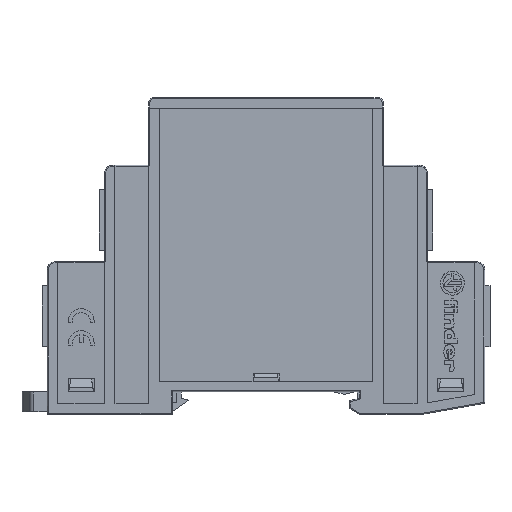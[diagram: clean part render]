
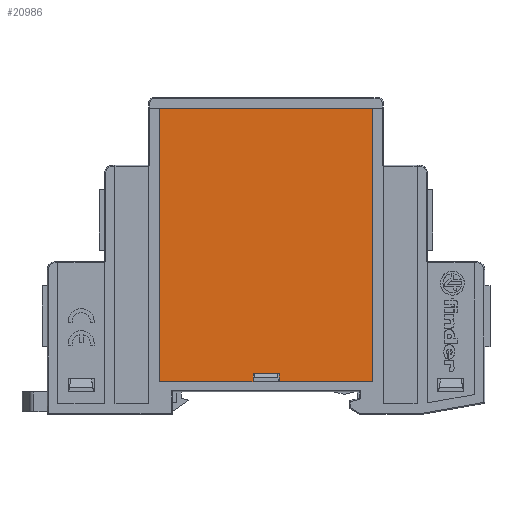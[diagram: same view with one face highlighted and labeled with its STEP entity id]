
A CAD part, left-side view. The second image highlights one B-rep face of the part: STEP entity #20986.
In plain terms, the highlighted planar face has unit normal (-1, 0, 0).
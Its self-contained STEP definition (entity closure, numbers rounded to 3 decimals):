
#3697=ORIENTED_EDGE('',*,*,#8383,.F.);
#3698=ORIENTED_EDGE('',*,*,#8240,.T.);
#3699=ORIENTED_EDGE('',*,*,#8236,.T.);
#3700=ORIENTED_EDGE('',*,*,#8231,.F.);
#3701=ORIENTED_EDGE('',*,*,#8384,.F.);
#3702=ORIENTED_EDGE('',*,*,#8385,.F.);
#3703=ORIENTED_EDGE('',*,*,#8386,.F.);
#3704=ORIENTED_EDGE('',*,*,#8387,.F.);
#8231=EDGE_CURVE('',#11234,#11235,#13904,.T.);
#8236=EDGE_CURVE('',#11238,#11235,#13909,.T.);
#8240=EDGE_CURVE('',#11239,#11238,#13913,.T.);
#8383=EDGE_CURVE('',#11239,#11340,#14041,.T.);
#8384=EDGE_CURVE('',#11341,#11234,#14042,.T.);
#8385=EDGE_CURVE('',#11342,#11341,#14043,.T.);
#8386=EDGE_CURVE('',#11343,#11342,#14044,.T.);
#8387=EDGE_CURVE('',#11340,#11343,#14045,.T.);
#11234=VERTEX_POINT('',#32464);
#11235=VERTEX_POINT('',#32465);
#11238=VERTEX_POINT('',#32474);
#11239=VERTEX_POINT('',#32478);
#11340=VERTEX_POINT('',#32772);
#11341=VERTEX_POINT('',#32774);
#11342=VERTEX_POINT('',#32776);
#11343=VERTEX_POINT('',#32778);
#13904=LINE('',#32463,#16321);
#13909=LINE('',#32473,#16326);
#13913=LINE('',#32480,#16330);
#14041=LINE('',#32771,#16458);
#14042=LINE('',#32773,#16459);
#14043=LINE('',#32775,#16460);
#14044=LINE('',#32777,#16461);
#14045=LINE('',#32779,#16462);
#16321=VECTOR('',#26047,1000.);
#16326=VECTOR('',#26054,1000.);
#16330=VECTOR('',#26060,1000.);
#16458=VECTOR('',#26282,1000.);
#16459=VECTOR('',#26283,1000.);
#16460=VECTOR('',#26284,1000.);
#16461=VECTOR('',#26285,1000.);
#16462=VECTOR('',#26286,1000.);
#18148=EDGE_LOOP('',(#3697,#3698,#3699,#3700,#3701,#3702,#3703,#3704));
#19273=FACE_BOUND('',#18148,.T.);
#20251=PLANE('',#22830);
#20986=ADVANCED_FACE('',(#19273),#20251,.T.);
#22830=AXIS2_PLACEMENT_3D('',#32770,#26280,#26281);
#26047=DIRECTION('',(0.,0.,1.));
#26054=DIRECTION('',(0.,-1.,0.));
#26060=DIRECTION('',(0.,0.,1.));
#26280=DIRECTION('',(-1.,0.,0.));
#26281=DIRECTION('',(0.,0.,1.));
#26282=DIRECTION('',(0.,1.,0.));
#26283=DIRECTION('',(0.,1.,0.));
#26284=DIRECTION('',(0.,0.,-1.));
#26285=DIRECTION('',(0.,-1.,0.));
#26286=DIRECTION('',(0.,0.,1.));
#32463=CARTESIAN_POINT('',(-25.203,50.274,-21.5));
#32464=CARTESIAN_POINT('',(-25.203,50.274,-21.5));
#32465=CARTESIAN_POINT('',(-25.203,50.274,-20.));
#32473=CARTESIAN_POINT('',(-25.203,55.274,-20.));
#32474=CARTESIAN_POINT('',(-25.203,55.274,-20.));
#32478=CARTESIAN_POINT('',(-25.203,55.274,-21.5));
#32480=CARTESIAN_POINT('',(-25.203,55.274,-21.5));
#32770=CARTESIAN_POINT('',(-25.203,10.773,-27.801));
#32771=CARTESIAN_POINT('',(-25.203,55.274,-21.5));
#32772=CARTESIAN_POINT('',(-25.203,73.274,-21.5));
#32773=CARTESIAN_POINT('',(-25.203,32.274,-21.5));
#32774=CARTESIAN_POINT('',(-25.203,32.274,-21.5));
#32775=CARTESIAN_POINT('',(-25.203,32.274,31.));
#32776=CARTESIAN_POINT('',(-25.203,32.274,31.));
#32777=CARTESIAN_POINT('',(-25.203,73.274,31.));
#32778=CARTESIAN_POINT('',(-25.203,73.274,31.));
#32779=CARTESIAN_POINT('',(-25.203,73.274,-21.5));
